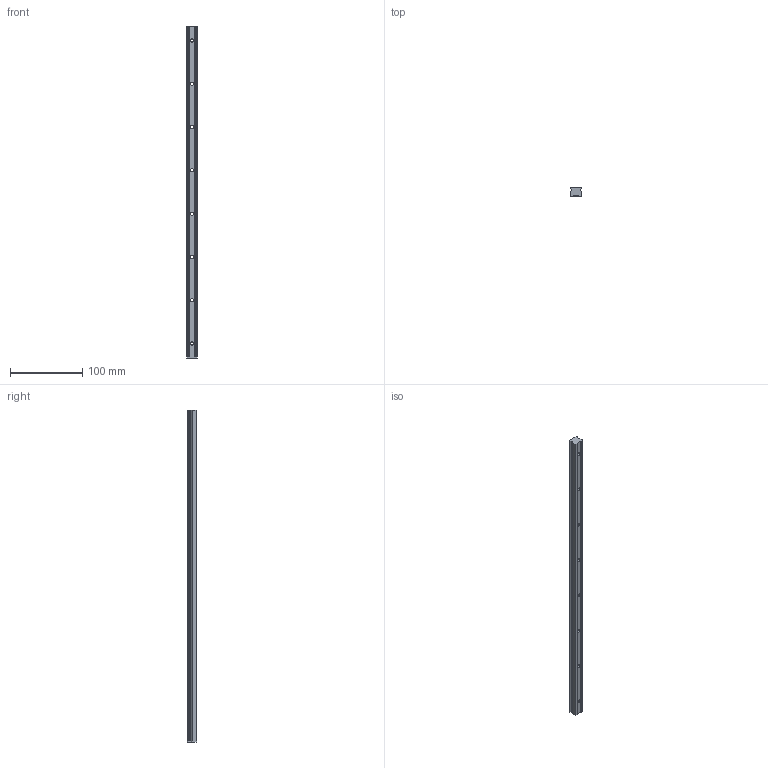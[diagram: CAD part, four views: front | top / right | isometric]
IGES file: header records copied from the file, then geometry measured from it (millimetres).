
Start section: SolidWorks IGES file using analytic representation for surfaces
Global section: file name: C:\Users\IanO\Desktop\L1016_v2\L1016.BL15_v2\L1016.BL15_v2_20190611_IGES\L1016.BL15-0460.igs; native system: SolidWorks 2017; preprocessor: SolidWorks 2017; author: IanO; date: 190612.122545; units: millimetre
Bounding box: 15 x 13 x 460 mm (x, y, z)
Surface area: 28446.1 mm2 (no closed solid volume)
Topology: 0 solids, 0 shells, 66 faces, 1304 edges, 1304 vertices
Faces by surface type: revolution 36, bspline 30
